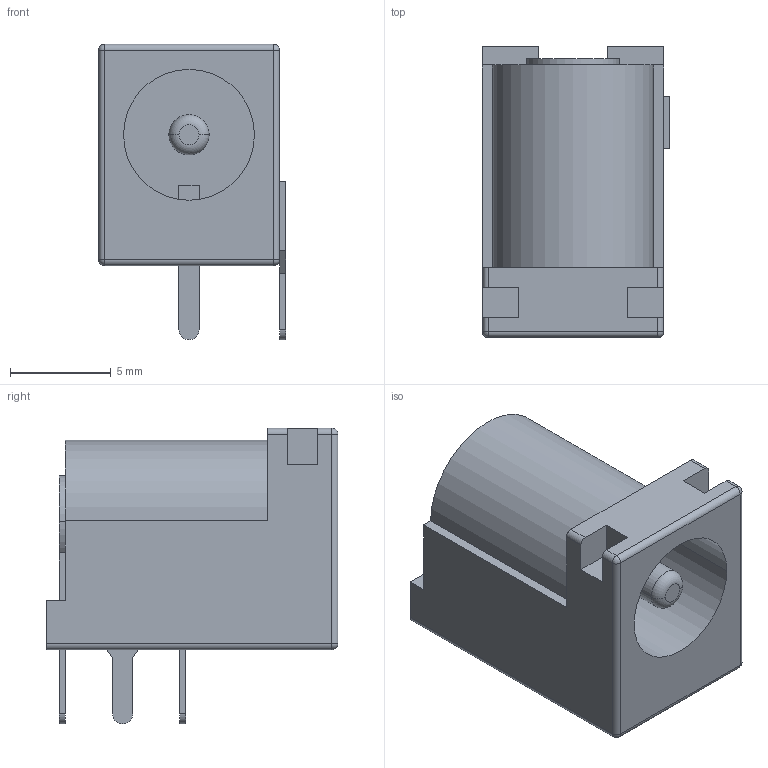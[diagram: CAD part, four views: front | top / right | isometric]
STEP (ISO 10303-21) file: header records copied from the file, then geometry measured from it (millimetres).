
FILE_DESCRIPTION(('Open CASCADE Model'),'2;1');
FILE_NAME('Open CASCADE Shape Model','2026-10-25T11:09:13',('Author'),( 'Open CASCADE'),'Open CASCADE STEP processor 8.0','Open CASCADE 8.0' ,'Unknown');
FILE_SCHEMA(('AUTOMOTIVE_DESIGN { 1 0 10303 214 1 1 1 1 }'));
Length unit declared in the file: millimetre
Products named in the file (1): Open CASCADE STEP translator 8.0 32
Bounding box: 9.3 x 14.5 x 14.68 mm (x, y, z)
Volume: 833 mm3; surface area: 1071.6 mm2
Topology: 1 solids, 1 shells, 83 faces, 215 edges, 134 vertices
Faces by surface type: plane 53, cylinder 24, sphere 4, torus 2
Entity records: 5461 total; most frequent: CARTESIAN_POINT 1169, DIRECTION 823, LINE 534, VECTOR 534, ORIENTED_EDGE 422, PCURVE 422, DEFINITIONAL_REPRESENTATION 422, EDGE_CURVE 211
